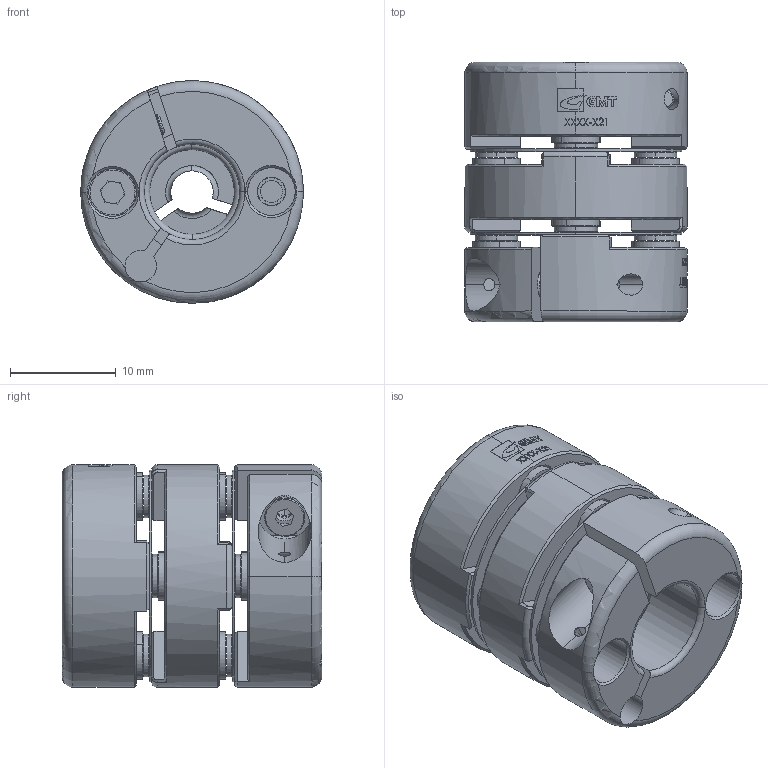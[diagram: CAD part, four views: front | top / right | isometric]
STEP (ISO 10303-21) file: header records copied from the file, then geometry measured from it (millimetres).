
FILE_DESCRIPTION (( 'STEP AP203' ), '1' );
FILE_NAME ('FACC-L21.STEP', '2008-04-04T03:22:23', ( '陳志豪' ), ( '高明鐵企業股份有限公司' ), 'SwSTEP 2.0', 'SolidWorks 2007', '' );
FILE_SCHEMA (( 'CONFIG_CONTROL_DESIGN' ));
Length unit declared in the file: millimetre
Products named in the file (1): FACC-L21
Bounding box: 21 x 24.5 x 21 mm (x, y, z)
Surface area: 5291.2 mm2 (no closed solid volume)
Topology: 0 solids, 31 shells, 420 faces, 1709 edges, 1237 vertices
Faces by surface type: plane 119, cylinder 110, bspline 94, cone 71, torus 26
Entity records: 19925 total; most frequent: CARTESIAN_POINT 7128, ORIENTED_EDGE 2577, DIRECTION 2268, EDGE_CURVE 1709, VERTEX_POINT 1237, AXIS2_PLACEMENT_3D 918, B_SPLINE_CURVE_WITH_KNOTS 686, CIRCLE 591
